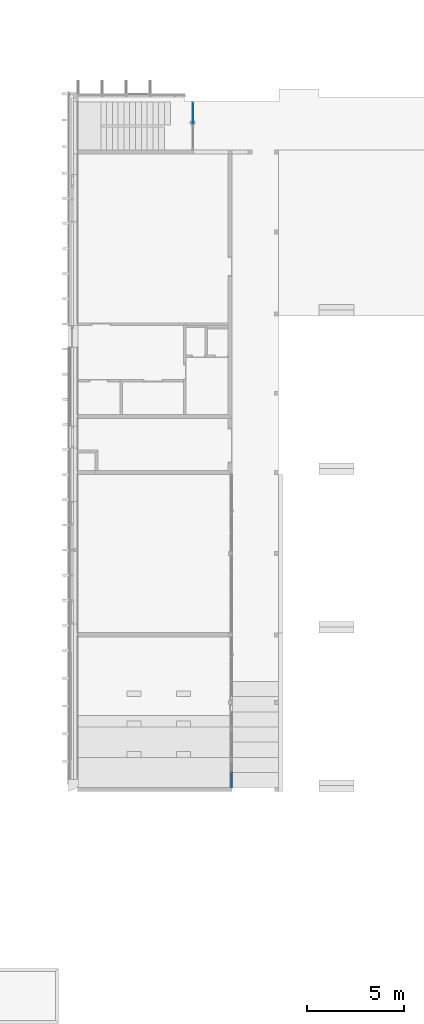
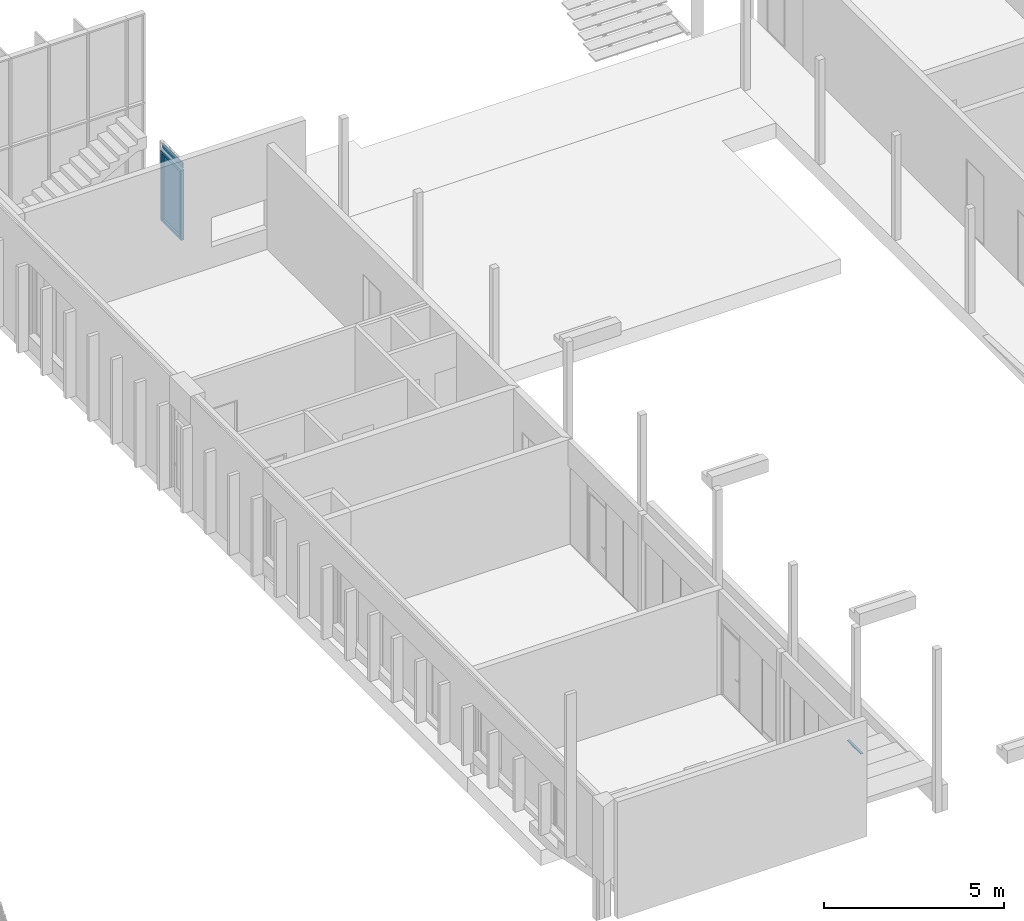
# One storey, part 40 of 65: 6 building element parts, 5 elements without a shape of their own.
"""IFC2X3 building model written with IfcOpenShell, lengths in millimetres."""

from ifc_helpers import new_model, entity, si_unit, converted_unit, derived_unit, money_unit, direction, frame, origin_with_axes, place, context, subcontext, project, spatial, faceted_brep, material, type_object, element, aggregate, save


model = new_model("IFC2X3")

# Units and contexts
model_context = context("Model", 3, precision=0.01, world=origin_with_axes(), true_north=direction((0.0, 1.0)))
body_context = subcontext(model_context, "Body", "Model", "MODEL_VIEW")
ifc_project = project(units=[si_unit("LENGTHUNIT", "METRE", prefix="MILLI"), si_unit("AREAUNIT", "SQUARE_METRE"), si_unit("VOLUMEUNIT", "CUBIC_METRE"), converted_unit("PLANEANGLEUNIT", "DEGREE", entity("IfcPlaneAngleMeasure", 0.0174532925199), si_unit("PLANEANGLEUNIT", "RADIAN"), dimensions=[0, 0, 0, 0, 0, 0, 0]), si_unit("SOLIDANGLEUNIT", "STERADIAN"), money_unit("EUR"), converted_unit("TIMEUNIT", "Year", entity("IfcTimeMeasure", 31556926.0), si_unit("TIMEUNIT", "SECOND"), dimensions=[0, 0, 1, 0, 0, 0, 0]), si_unit("MASSUNIT", "GRAM", prefix="KILO"), si_unit("THERMODYNAMICTEMPERATUREUNIT", "DEGREE_CELSIUS"), si_unit("LUMINOUSINTENSITYUNIT", "LUMEN"), si_unit("ENERGYUNIT", "JOULE", prefix="MEGA"), derived_unit("THERMALCONDUCTANCEUNIT", [(si_unit("POWERUNIT", "WATT"), 1), (si_unit("LENGTHUNIT", "METRE"), -1), (si_unit("THERMODYNAMICTEMPERATUREUNIT", "KELVIN"), -1)]), derived_unit("SPECIFICHEATCAPACITYUNIT", [(si_unit("ENERGYUNIT", "JOULE"), 1), (si_unit("MASSUNIT", "GRAM", prefix="KILO"), -1), (si_unit("THERMODYNAMICTEMPERATUREUNIT", "KELVIN"), -1)]), derived_unit("MASSDENSITYUNIT", [(si_unit("MASSUNIT", "GRAM", prefix="KILO"), 1), (si_unit("VOLUMEUNIT", "CUBIC_METRE"), -1)])], contexts=[model_context])

# Site, building, storey
site_placement = place(None, origin_with_axes())
site = spatial("IfcSite", under=ifc_project, at=site_placement, Name="Puškini 31, Narva", CompositionType="ELEMENT")
building_placement = place(site_placement, origin_with_axes())
building = spatial("IfcBuilding", under=site, at=building_placement, Name="Narva Riigigümnaasium", CompositionType="ELEMENT")
storey_placement = place(building_placement, frame((0.0, 0.0, -1320.0), z_axis=(0.0, 0.0, 1.0), x_axis=(1.0, 0.0, 0.0)))
storey = spatial("IfcBuildingStorey", under=building, at=storey_placement, Name="1.korrus -1.32", CompositionType="ELEMENT", Elevation=-1320.0)

# Curtain wall, door, building element parts, plate
curtain_wall_type = type_object("IfcCurtainWallType", Name="Curtain Wall Type", PredefinedType="NOTDEFINED")
curtain_wall_1_placement = place(storey_placement, frame((28354.9542923, 194209.397521, 0.0), z_axis=(0.0, 0.0, 1.0), x_axis=(1.0, 0.0, 0.0)))
curtain_wall_1 = element("IfcCurtainWall", 1, at=curtain_wall_1_placement, inside=storey, type_object=curtain_wall_type, Name="G-SKLF-07")
door_style = type_object("IfcDoorStyle", Name="1132 x 2349 x 20", ConstructionType="NOTDEFINED", OperationType="NOTDEFINED", ParameterTakesPrecedence=False, Sizeable=False)
door_placement = place(curtain_wall_1_placement, frame((0.0, 0.0, 960.0), z_axis=(0.0, 0.0, 1.0), x_axis=(-4.05197719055e-06, -0.999999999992, 0.0)))
door = element("IfcDoor", 2, at=door_placement, type_object=door_style, Name="G-SKLF-07-U1", ObjectType="DOOR")
ifc_material_1 = material(Name="Alumiiniumprofiil")
building_element_part_1_placement = place(door_placement, origin_with_axes())
building_element_part_1 = element("IfcBuildingElementPart", 3, at=building_element_part_1_placement, material=ifc_material_1, Name="Alumiiniumprofiil", context=body_context, shape_type="Brep", body=[
    faceted_brep([(668.219262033, -10.0, -960.0), (-463.802481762, -10.0, -960.0), (-463.802481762, 10.0, -960.0), (668.219262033, 10.0, -960.0), (709.40165242, -10.0, -940.0), (-437.402474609, -10.0, -940.0), (-437.402474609, 10.0, -940.0), (709.40165242, 10.0, -940.0)], [[[0, 1, 2, 3]], [[0, 4, 5, 1]], [[1, 5, 6, 2]], [[3, 2, 6, 7]], [[4, 0, 3, 7]], [[5, 4, 7, 6]]]),
    faceted_brep([(-463.802481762, -10.0, -960.0), (-463.802481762, -10.0, 1409.41763822), (-463.802481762, 10.0, 1409.41763822), (-463.802481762, 10.0, -960.0), (-437.402474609, -10.0, -940.0), (-437.402474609, -10.0, 1440.0), (-437.402474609, 10.0, 1440.0), (-437.402474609, 10.0, -940.0)], [[[0, 1, 2, 3]], [[0, 4, 5, 1]], [[1, 5, 6, 2]], [[3, 2, 6, 7]], [[4, 0, 3, 7]], [[5, 4, 7, 6]]]),
    faceted_brep([(-437.402474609, -10.0, 1440.0), (709.40165242, -10.0, 1440.0), (709.40165242, 10.0, 1440.0), (-437.402474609, 10.0, 1440.0), (-463.802481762, -10.0, 1409.41763822), (668.219262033, -10.0, 1409.41763822), (668.219262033, 10.0, 1409.41763822), (-463.802481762, 10.0, 1409.41763822)], [[[0, 1, 2, 3]], [[0, 4, 5, 1]], [[1, 5, 6, 2]], [[3, 2, 6, 7]], [[4, 0, 3, 7]], [[5, 4, 7, 6]]]),
    faceted_brep([(709.40165242, -10.0, 1440.0), (709.40165242, -10.0, -940.0), (709.40165242, 10.0, -940.0), (709.40165242, 10.0, 1440.0), (668.219262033, -10.0, 1409.41763822), (668.219262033, -10.0, -960.0), (668.219262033, 10.0, -960.0), (668.219262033, 10.0, 1409.41763822)], [[[0, 1, 2, 3]], [[0, 4, 5, 1]], [[1, 5, 6, 2]], [[3, 2, 6, 7]], [[4, 0, 3, 7]], [[5, 4, 7, 6]]]),
    faceted_brep([(631.40165242, 45.0, -862.0), (631.40165242, -45.0, -862.0), (631.40165242, -45.0, 1362.0), (631.40165242, 45.0, 1362.0), (709.40165242, 45.0, -940.0), (709.40165242, -45.0, -940.0), (709.40165242, -45.0, 1440.0), (709.40165242, 45.0, 1440.0)], [[[0, 1, 2, 3]], [[4, 5, 1, 0]], [[1, 5, 6, 2]], [[3, 2, 6, 7]], [[0, 3, 7, 4]], [[7, 6, 5, 4]]]),
    faceted_brep([(-437.402474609, 45.0, -940.0), (-437.402474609, -45.0, -940.0), (-437.402474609, -45.0, 1440.0), (-437.402474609, 45.0, 1440.0), (-359.402474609, 45.0, -862.0), (-359.402474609, -45.0, -862.0), (-359.402474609, -45.0, 1362.0), (-359.402474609, 45.0, 1362.0)], [[[0, 1, 2, 3]], [[4, 5, 1, 0]], [[1, 5, 6, 2]], [[3, 2, 6, 7]], [[0, 3, 7, 4]], [[7, 6, 5, 4]]]),
    faceted_brep([(-437.402474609, 45.0, -940.0), (-437.402474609, -45.0, -940.0), (-359.402474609, -45.0, -862.0), (-359.402474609, 45.0, -862.0), (709.40165242, 45.0, -940.0), (709.40165242, -45.0, -940.0), (631.40165242, -45.0, -862.0), (631.40165242, 45.0, -862.0)], [[[0, 1, 2, 3]], [[4, 5, 1, 0]], [[1, 5, 6, 2]], [[3, 2, 6, 7]], [[0, 3, 7, 4]], [[7, 6, 5, 4]]]),
    faceted_brep([(709.40165242, 45.0, 1440.0), (709.40165242, -45.0, 1440.0), (631.40165242, -45.0, 1362.0), (631.40165242, 45.0, 1362.0), (-437.402474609, 45.0, 1440.0), (-437.402474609, -45.0, 1440.0), (-359.402474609, -45.0, 1362.0), (-359.402474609, 45.0, 1362.0)], [[[0, 1, 2, 3]], [[4, 5, 1, 0]], [[1, 5, 6, 2]], [[3, 2, 6, 7]], [[0, 3, 7, 4]], [[7, 6, 5, 4]]]),
])
ifc_material_2 = material(Name="VKR-05_Klaas")
building_element_part_2_placement = place(door_placement, origin_with_axes())
building_element_part_2 = element("IfcBuildingElementPart", 4, at=building_element_part_2_placement, material=ifc_material_2, Name="VKR-05_Klaas", context=body_context, shape_type="Brep", body=[
    faceted_brep([(631.40165242, 33.0, -862.0), (631.40165242, 17.0, -862.0), (-359.402474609, 17.0, -862.0), (-359.402474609, 33.0, -862.0), (631.40165242, 33.0, 1362.0), (631.40165242, 17.0, 1362.0), (-359.402474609, 17.0, 1362.0), (-359.402474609, 33.0, 1362.0)], [[[0, 1, 2, 3]], [[4, 5, 1, 0]], [[1, 5, 6, 2]], [[3, 2, 6, 7]], [[0, 3, 7, 4]], [[7, 6, 5, 4]]]),
])
aggregate(door, [building_element_part_1, building_element_part_2])
plate_type = type_object("IfcPlateType", Name="1158 x 239 x 20", PredefinedType="CURTAIN_PANEL")
plate_placement = place(curtain_wall_1_placement, frame((-0.000443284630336, -109.399586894, 2550.0), z_axis=(0.0, 0.0, 1.0), x_axis=(-4.05197719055e-06, -0.999999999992, 0.0)))
plate = element("IfcPlate", 5, at=plate_placement, type_object=plate_type, Name="G-SKLF-07-klaas", ObjectType="CURTAIN_PANEL")
aggregate(curtain_wall_1, [door, plate])
building_element_part_3_placement = place(plate_placement, origin_with_axes())
building_element_part_3 = element("IfcBuildingElementPart", 6, at=building_element_part_3_placement, material=ifc_material_2, Name="VKR-05_Klaas", context=body_context, shape_type="Brep", body=[
    faceted_brep([(-538.837363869, 17.0, 88.8352939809), (600.002065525, 17.0, 88.8352939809), (600.002065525, 22.0, 88.8352939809), (-538.837363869, 22.0, 88.8352939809), (-538.837363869, 17.0, -88.8352983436), (600.002065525, 17.0, -88.8352983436), (600.002065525, 22.0, -88.8352983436), (-538.837363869, 22.0, -88.8352983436)], [[[0, 1, 2, 3]], [[0, 4, 5, 1]], [[1, 5, 6, 2]], [[3, 2, 6, 7]], [[4, 0, 3, 7]], [[5, 4, 7, 6]]]),
    faceted_brep([(-538.837363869, 28.0, 88.8352939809), (600.002065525, 28.0, 88.8352939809), (600.002065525, 33.0, 88.8352939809), (-538.837363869, 33.0, 88.8352939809), (-538.837363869, 28.0, -88.8352983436), (600.002065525, 28.0, -88.8352983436), (600.002065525, 33.0, -88.8352983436), (-538.837363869, 33.0, -88.8352983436)], [[[0, 1, 2, 3]], [[0, 4, 5, 1]], [[1, 5, 6, 2]], [[3, 2, 6, 7]], [[4, 0, 3, 7]], [[5, 4, 7, 6]]]),
])
ifc_material_3 = material(Name="VKR-06_Õhkvahe")
building_element_part_4_placement = place(plate_placement, origin_with_axes())
building_element_part_4 = element("IfcBuildingElementPart", 7, at=building_element_part_4_placement, material=ifc_material_3, Name="VKR-06_Õhkvahe", context=body_context, shape_type="Brep", body=[
    faceted_brep([(-538.837363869, 22.0, 88.8352939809), (600.002065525, 22.0, 88.8352939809), (600.002065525, 28.0, 88.8352939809), (-538.837363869, 28.0, 88.8352939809), (-538.837363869, 22.0, -88.8352983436), (600.002065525, 22.0, -88.8352983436), (600.002065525, 28.0, -88.8352983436), (-538.837363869, 28.0, -88.8352983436)], [[[0, 1, 2, 3]], [[0, 4, 5, 1]], [[1, 5, 6, 2]], [[3, 2, 6, 7]], [[4, 0, 3, 7]], [[5, 4, 7, 6]]]),
])
aggregate(plate, [building_element_part_3, building_element_part_4])

# Curtain wall, member, building element parts
curtain_wall_2_placement = place(storey_placement, frame((30362.9999948, 159591.499992, 330.0), z_axis=(0.0, 0.0, 1.0), x_axis=(1.0, 0.0, 0.0)))
curtain_wall_2 = element("IfcCurtainWall", 8, at=curtain_wall_2_placement, inside=storey, type_object=curtain_wall_type, Name="G-SKLF-03")
member_type = type_object("IfcMemberType", Name="30 x 37", PredefinedType="MULLION")
member_placement = place(curtain_wall_2_placement, frame((0.0, 391.5, 2369.99991755), z_axis=(0.0, -1.0, 4.38014455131e-08), x_axis=(0.0, -4.38014455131e-08, -1.0)))
member = element("IfcMember", 9, at=member_placement, type_object=member_type, Name="G-SKLF-30-raam", ObjectType="MULLION")
aggregate(curtain_wall_2, [member])
ifc_material_4 = material(Name="Klaasvill")
building_element_part_5_placement = place(member_placement, origin_with_axes())
building_element_part_5 = element("IfcBuildingElementPart", 10, at=building_element_part_5_placement, material=ifc_material_4, Name="Klaasvill", context=body_context, shape_type="Brep", body=[
    faceted_brep([(7.49999990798, 20.000000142, -6.57022088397e-07), (13.8499999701, 20.000000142, -6.57022088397e-07), (13.8499999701, 20.000000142, 769.149999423), (7.49999990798, 20.000000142, 775.499999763), (7.49999990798, 34.0161444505, -6.57022088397e-07), (13.8499999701, 34.0161444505, -6.57022088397e-07), (13.8499999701, 34.0161444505, 769.149999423), (7.49999990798, 34.0161444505, 775.499999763)], [[[0, 1, 2, 3]], [[0, 4, 5, 1]], [[1, 5, 6, 2]], [[3, 2, 6, 7]], [[4, 0, 3, 7]], [[5, 4, 7, 6]]]),
    faceted_brep([(24.987414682, 34.0161444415, -6.57022088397e-07), (25.004489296, 32.0307503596, -6.57022088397e-07), (25.004489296, 32.0307503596, 757.995509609), (24.987414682, 34.0161444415, 758.012584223), (28.5126239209, 34.0161444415, -6.57022088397e-07), (28.7655837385, 33.0385325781, -6.57022088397e-07), (28.4955493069, 32.0307503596, -6.57022088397e-07), (27.75780152, 31.2930025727, -6.57022088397e-07), (26.7500193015, 31.0229681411, -6.57022088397e-07), (25.742237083, 31.2930025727, -6.57022088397e-07), (25.742237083, 31.2930025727, 757.257761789), (26.7500193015, 31.0229681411, 756.249979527), (27.75780152, 31.2930025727, 755.242197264), (28.4955493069, 32.0307503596, 754.504449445), (28.7655837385, 33.0385325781, 754.234415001), (28.5126239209, 34.0161444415, 754.48737483)], [[[0, 1, 2, 3]], [[0, 4, 5, 6, 7, 8, 9, 1]], [[1, 9, 10, 2]], [[3, 2, 10, 11, 12, 13, 14, 15]], [[4, 0, 3, 15]], [[5, 4, 15, 14]], [[6, 5, 14, 13]], [[7, 6, 13, 12]], [[8, 7, 12, 11]], [[9, 8, 11, 10]]]),
    faceted_brep([(7.49999990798, -19.9999997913, -6.57022088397e-07), (7.49999990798, -34.0161445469, -6.57022088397e-07), (7.49999990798, -34.0161445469, 775.499999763), (7.49999990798, -19.9999997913, 775.499999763), (13.8499999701, -19.9999997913, -6.57022088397e-07), (13.8499999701, -34.0161445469, -6.57022088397e-07), (13.8499999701, -34.0161445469, 769.149999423), (13.8499999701, -19.9999997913, 769.149999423)], [[[0, 1, 2, 3]], [[0, 4, 5, 1]], [[1, 5, 6, 2]], [[3, 2, 6, 7]], [[4, 0, 3, 7]], [[5, 4, 7, 6]]]),
    faceted_brep([(25.004489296, -32.0307503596, -6.57022088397e-07), (24.987414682, -34.0161444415, -6.57022088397e-07), (24.987414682, -34.0161444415, 758.012584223), (25.004489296, -32.0307503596, 757.995509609), (25.742237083, -31.2930025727, -6.57022088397e-07), (26.7500193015, -31.0229681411, -6.57022088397e-07), (27.75780152, -31.2930025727, -6.57022088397e-07), (28.4955493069, -32.0307503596, -6.57022088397e-07), (28.7655837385, -33.0385325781, -6.57022088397e-07), (28.5126239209, -34.0161444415, -6.57022088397e-07), (28.5126239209, -34.0161444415, 754.48737483), (28.7655837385, -33.0385325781, 754.234415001), (28.4955493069, -32.0307503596, 754.504449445), (27.75780152, -31.2930025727, 755.242197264), (26.7500193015, -31.0229681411, 756.249979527), (25.742237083, -31.2930025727, 757.257761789)], [[[0, 1, 2, 3]], [[0, 4, 5, 6, 7, 8, 9, 1]], [[1, 9, 10, 2]], [[3, 2, 10, 11, 12, 13, 14, 15]], [[4, 0, 3, 15]], [[5, 4, 15, 14]], [[6, 5, 14, 13]], [[7, 6, 13, 12]], [[8, 7, 12, 11]], [[9, 8, 11, 10]]]),
])
ifc_material_5 = material(Name="Teras RAL7012")
building_element_part_6_placement = place(member_placement, origin_with_axes())
building_element_part_6 = element("IfcBuildingElementPart", 11, at=building_element_part_6_placement, material=ifc_material_5, Name="Teras RAL7012", context=body_context, shape_type="Brep", body=[
    faceted_brep([(0.0, -17.0000000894, -6.57022088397e-07), (29.5999996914, -17.0000000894, -6.57022088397e-07), (29.5999996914, -17.0000000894, 753.399999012), (0.0, -17.0000000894, 783.0), (0.0, 17.0000000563, -6.57022088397e-07), (29.5999996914, 17.0000000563, -6.57022088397e-07), (1.9999999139, 15.0000001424, -6.57022088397e-07), (1.9999999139, -15.0000001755, -6.57022088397e-07), (18.7999996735, -15.0000001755, -6.57022088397e-07), (18.7999996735, 15.0000001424, -6.57022088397e-07), (29.5999996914, 17.0000000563, 753.399999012), (0.0, 17.0000000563, 783.0), (1.9999999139, 15.0000001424, 780.999999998), (18.7999996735, 15.0000001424, 764.199999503), (18.7999996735, -15.0000001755, 764.199999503), (1.9999999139, -15.0000001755, 780.999999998)], [[[0, 1, 2, 3]], [[0, 4, 5, 1], [6, 7, 8, 9]], [[1, 5, 10, 2]], [[3, 2, 10, 11], [12, 13, 14, 15]], [[4, 0, 3, 11]], [[5, 4, 11, 10]], [[7, 6, 12, 15]], [[8, 7, 15, 14]], [[9, 8, 14, 13]], [[6, 9, 13, 12]]]),
    faceted_brep([(0.0, 17.0, -6.57022088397e-07), (29.5999996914, 17.0000000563, -6.57022088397e-07), (29.5999996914, 17.0000000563, 753.399999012), (0.0, 17.0, 783.0), (0.0, 37.0, -6.57022088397e-07), (30.0000193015, 37.0, -6.57022088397e-07), (30.0000193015, 34.0161444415, -6.57022088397e-07), (28.5126239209, 34.0161444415, -6.57022088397e-07), (24.987414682, 34.0161444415, -6.57022088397e-07), (13.8499999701, 34.0161444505, -6.57022088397e-07), (7.49999999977, 34.0161444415, -6.57022088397e-07), (7.49999999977, 20.0, -6.57022088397e-07), (13.8499999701, 20.000000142, -6.57022088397e-07), (30.0000193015, 20.0, -6.57022088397e-07), (30.0000193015, 17.0, -6.57022088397e-07), (30.0000193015, 17.0, 752.999979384), (30.0000193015, 20.0, 752.999979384), (13.8499999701, 20.000000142, 769.149999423), (7.49999999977, 20.0, 775.499999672), (7.49999999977, 34.0161444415, 775.499999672), (13.8499999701, 34.0161444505, 769.149999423), (24.987414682, 34.0161444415, 758.012584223), (28.5126239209, 34.0161444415, 754.48737483), (30.0000193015, 34.0161444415, 752.999979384), (30.0000193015, 37.0, 752.999979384), (0.0, 37.0, 783.0)], [[[0, 1, 2, 3]], [[0, 4, 5, 6, 7, 8, 9, 10, 11, 12, 13, 14, 1]], [[1, 14, 15, 2]], [[3, 2, 15, 16, 17, 18, 19, 20, 21, 22, 23, 24, 25]], [[4, 0, 3, 25]], [[5, 4, 25, 24]], [[6, 5, 24, 23]], [[7, 6, 23, 22]], [[8, 7, 22, 21]], [[9, 8, 21, 20]], [[10, 9, 20, 19]], [[11, 10, 19, 18]], [[12, 11, 18, 17]], [[13, 12, 17, 16]], [[14, 13, 16, 15]]]),
    faceted_brep([(0.0, -17.0, -6.57022088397e-07), (0.0, -37.0, -6.57022088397e-07), (0.0, -37.0, 783.0), (0.0, -17.0, 783.0), (29.5999996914, -17.0000000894, -6.57022088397e-07), (30.0000193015, -17.0, -6.57022088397e-07), (30.0000193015, -20.0, -6.57022088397e-07), (13.8499999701, -19.9999997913, -6.57022088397e-07), (7.49999999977, -20.0, -6.57022088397e-07), (7.49999999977, -34.0161444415, -6.57022088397e-07), (13.8499999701, -34.0161445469, -6.57022088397e-07), (24.987414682, -34.0161444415, -6.57022088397e-07), (28.5126239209, -34.0161444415, -6.57022088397e-07), (30.0000193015, -34.0161444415, -6.57022088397e-07), (30.0000193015, -37.0, -6.57022088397e-07), (30.0000193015, -37.0, 752.999979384), (30.0000193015, -34.0161444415, 752.999979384), (28.5126239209, -34.0161444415, 754.48737483), (24.987414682, -34.0161444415, 758.012584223), (13.8499999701, -34.0161445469, 769.149999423), (7.49999999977, -34.0161444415, 775.499999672), (7.49999999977, -20.0, 775.499999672), (13.8499999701, -19.9999997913, 769.149999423), (30.0000193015, -20.0, 752.999979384), (30.0000193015, -17.0, 752.999979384), (29.5999996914, -17.0000000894, 753.399999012)], [[[0, 1, 2, 3]], [[0, 4, 5, 6, 7, 8, 9, 10, 11, 12, 13, 14, 1]], [[1, 14, 15, 2]], [[3, 2, 15, 16, 17, 18, 19, 20, 21, 22, 23, 24, 25]], [[4, 0, 3, 25]], [[5, 4, 25, 24]], [[6, 5, 24, 23]], [[7, 6, 23, 22]], [[8, 7, 22, 21]], [[9, 8, 21, 20]], [[10, 9, 20, 19]], [[11, 10, 19, 18]], [[12, 11, 18, 17]], [[13, 12, 17, 16]], [[14, 13, 16, 15]]]),
])
aggregate(member, [building_element_part_5, building_element_part_6])

save(model, "model.ifc")
